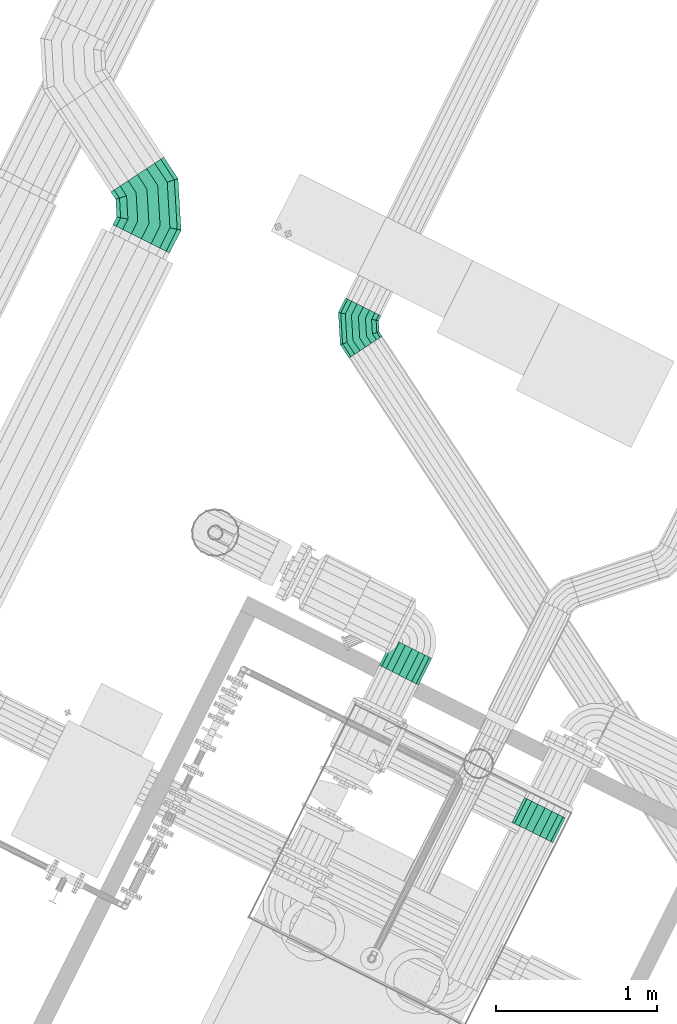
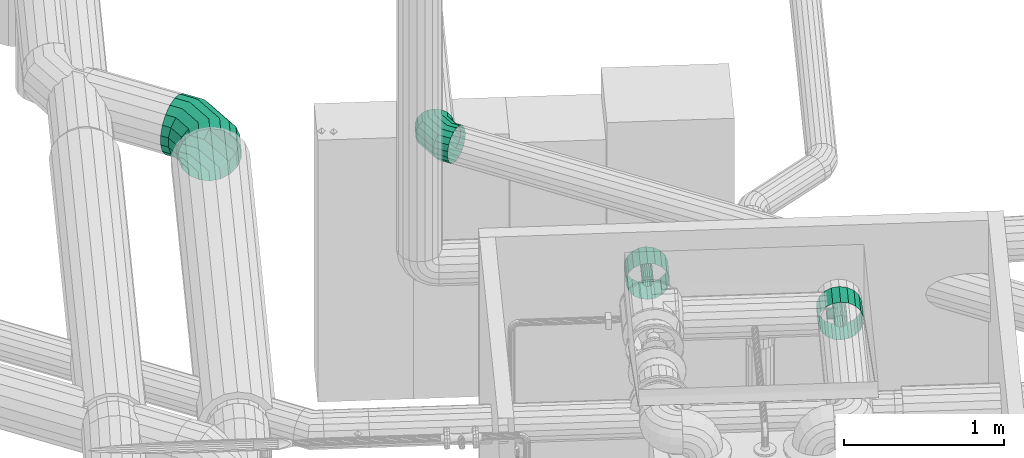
# One storey, part 159 of 206: 3 flow fittings, 1 flow segment.
"""IFC2X3 building model written with IfcOpenShell, lengths in metres."""

import ifcopenshell
import ifcopenshell.guid

model = None  # the IFC model being written
_history = None  # IfcOwnerHistory: only IFC2X3 demands one
_inside = {}  # id of a spatial element -> (the spatial element, [elements in it])
_under = {}  # id of a project, library or spatial element -> (it, [spatial elements below it])
_declared = {}  # id of a project -> (the project, [libraries it declares])
_typed = {}  # id of a type object -> (the type object, [elements of that type])
_made_of = {}  # id of a material, layer set ... -> (it, [elements and type objects made of it])


def new_model(schema):
    """Start an empty IFC model of exactly this schema.

    Asked for "IFC4X3", IfcOpenShell would pick the latest addendum, in which some entities
    have other attributes; the version numbers below select the first issue.
    IFC2X3 requires an IfcOwnerHistory on every rooted entity: one is made here for all.
    """
    global model, _history
    if schema == "IFC4X3":
        model = ifcopenshell.file(schema_version=(4, 3, 0, 0))
    else:
        model = ifcopenshell.file(schema=schema)
    _inside.clear()
    _under.clear()
    _declared.clear()
    _typed.clear()
    _made_of.clear()
    _history = None
    if model.schema == "IFC2X3":
        org = make("IfcOrganization", Name="unknown")
        user = make(
            "IfcPersonAndOrganization",
            ThePerson=make("IfcPerson", FamilyName="unknown"),
            TheOrganization=org,
        )
        app = make(
            "IfcApplication",
            ApplicationDeveloper=org,
            Version="unknown",
            ApplicationFullName="unknown",
            ApplicationIdentifier="unknown",
        )
        _history = make(
            "IfcOwnerHistory",
            OwningUser=user,
            OwningApplication=app,
            ChangeAction="ADDED",
            CreationDate=0,
        )
    return model


def make(cls, **values):
    """One entity of the class cls with the attributes given. An attribute that is None is left unset."""
    return model.create_entity(
        cls, **{name: value for name, value in values.items() if value is not None}
    )


def rooted(cls, **values):
    """An entity with a GlobalId (a new one), such as an element, a storey or a relation."""
    return make(cls, GlobalId=ifcopenshell.guid.new(), OwnerHistory=_history, **values)


def si_unit(unit_type, name, prefix=None):
    """IfcSIUnit, for example si_unit("LENGTHUNIT", "METRE", prefix="MILLI")."""
    return make("IfcSIUnit", UnitType=unit_type, Prefix=prefix, Name=name)


def derived_unit(unit_type, elements):
    """IfcDerivedUnit: a product of units, each with its exponent."""
    return make(
        "IfcDerivedUnit",
        Elements=[
            make("IfcDerivedUnitElement", Unit=unit, Exponent=power)
            for unit, power in elements
        ],
        UnitType=unit_type,
    )


def assignment(units):
    """IfcUnitAssignment: the units of a project."""
    return None if units is None else make("IfcUnitAssignment", Units=units)


def point(xyz):
    """IfcCartesianPoint."""
    return None if xyz is None else make("IfcCartesianPoint", Coordinates=xyz)


def direction(xyz):
    """IfcDirection."""
    return None if xyz is None else make("IfcDirection", DirectionRatios=xyz)


def frame(location, z_axis=None, x_axis=None):
    """IfcAxis2Placement3D, a coordinate frame: its origin and axes. An axis left out is left unset."""
    return make(
        "IfcAxis2Placement3D",
        Location=point(location),
        Axis=direction(z_axis),
        RefDirection=direction(x_axis),
    )


def origin():
    """The frame at (0, 0, 0) with its axes left unset."""
    return frame((0.0, 0.0, 0.0))


def place(relative_to, where):
    """IfcLocalPlacement: puts the frame where relative to a parent placement (None: the world)."""
    return make(
        "IfcLocalPlacement", PlacementRelTo=relative_to, RelativePlacement=where
    )


def context(
    kind, dimensions, precision=None, world=None, true_north=None, identifier=None
):
    """IfcGeometricRepresentationContext, for example the 3D "Model" context."""
    return make(
        "IfcGeometricRepresentationContext",
        ContextIdentifier=identifier,
        ContextType=kind,
        CoordinateSpaceDimension=dimensions,
        Precision=precision,
        WorldCoordinateSystem=world,
        TrueNorth=true_north,
    )


def subcontext(parent, identifier, kind, view, scale=None):
    """IfcGeometricRepresentationSubContext, for example "Body" below "Model"."""
    return make(
        "IfcGeometricRepresentationSubContext",
        ContextIdentifier=identifier,
        ContextType=kind,
        ParentContext=parent,
        TargetScale=scale,
        TargetView=view,
    )


def project(units=None, contexts=None):
    """IfcProject with its units and contexts."""
    return rooted(
        "IfcProject",
        Name="project",
        RepresentationContexts=contexts,
        UnitsInContext=assignment(units),
    )


def spatial(cls, under=None, at=None, **own):
    """A site, building, storey or space (cls), placed at a placement, below another one or the project."""
    s = rooted(cls, ObjectPlacement=at, **own)
    if under is not None:
        _under.setdefault(under.id(), (under, []))[1].append(s)
    return s


def faces_of(points, faces, orient=None, outer=None):
    """IfcFace entities. A face is a list of loops; a loop is a list of indices into points, from 0.

    orient and outer hold one flag for each loop. By default every Orientation is true, the
    first loop of a face is its IfcFaceOuterBound and the others are IfcFaceBound.
    """
    made = []
    for i, loops in enumerate(faces):
        bounds = []
        for j, loop in enumerate(loops):
            is_outer = j == 0 if outer is None else outer[i][j]
            bounds.append(
                make(
                    "IfcFaceOuterBound" if is_outer else "IfcFaceBound",
                    Bound=make("IfcPolyLoop", Polygon=[points[k] for k in loop]),
                    Orientation=True if orient is None else orient[i][j],
                )
            )
        made.append(make("IfcFace", Bounds=bounds))
    return made


def face_set(faces, orient=None, outer=None):
    """The faces of one IfcConnectedFaceSet. surface_model builds it on its shared points."""
    return ("IfcConnectedFaceSet", faces, orient, outer)


def surface_model(cls, points, shells):
    """IfcFaceBasedSurfaceModel or IfcShellBasedSurfaceModel (cls): surfaces that need not close."""
    shared = [point(p) for p in points]
    made = [make(c, CfsFaces=faces_of(shared, fs, o, b)) for c, fs, o, b in shells]
    if cls == "IfcFaceBasedSurfaceModel":
        return make(cls, FbsmFaces=made)
    return make(cls, SbsmBoundary=made)


def shape(context_of_items, identifier, shape_type, items):
    """IfcShapeRepresentation: the items that make up one representation, for example the "Body"."""
    return make(
        "IfcShapeRepresentation",
        ContextOfItems=context_of_items,
        RepresentationIdentifier=identifier,
        RepresentationType=shape_type,
        Items=items,
    )


def source(mapping_origin, context_of_items, identifier, shape_type, items):
    """IfcRepresentationMap: a shape defined once, which mapped items show again and again."""
    return make(
        "IfcRepresentationMap",
        MappingOrigin=mapping_origin,
        MappedRepresentation=shape(context_of_items, identifier, shape_type, items),
    )


def transform(
    local_origin,
    x_axis=None,
    y_axis=None,
    z_axis=None,
    scale=None,
    scale2=None,
    scale3=None,
    uniform=True,
):
    """IfcCartesianTransformationOperator3D, or its non-uniform kind. x_axis, y_axis, z_axis: its Axis1, 2, 3."""
    if uniform:
        return make(
            "IfcCartesianTransformationOperator3D",
            Axis1=direction(x_axis),
            Axis2=direction(y_axis),
            LocalOrigin=point(local_origin),
            Scale=scale,
            Axis3=direction(z_axis),
        )
    return make(
        "IfcCartesianTransformationOperator3DnonUniform",
        Axis1=direction(x_axis),
        Axis2=direction(y_axis),
        LocalOrigin=point(local_origin),
        Scale=scale,
        Axis3=direction(z_axis),
        Scale2=scale2,
        Scale3=scale3,
    )


def mapped(mapping_source, mapping_target):
    """IfcMappedItem: shows the shape of a source again, moved by a transform."""
    return make(
        "IfcMappedItem", MappingSource=mapping_source, MappingTarget=mapping_target
    )


def material(Name=None, Category=None):
    """IfcMaterial."""
    return make("IfcMaterial", Name=Name, Category=Category)


def made_of(thing, what):
    """Note that an element or type object is made of a material, layer set ...; save() writes the relation."""
    if what is not None:
        _made_of.setdefault(what.id(), (what, []))[1].append(thing)
    return thing


def type_object(cls, material=None, **own):
    """A type object (cls), such as IfcWallType, which elements share."""
    return made_of(rooted(cls, **own), material)


def type_shapes(of_type, sources):
    """Give a type object the sources (RepresentationMaps) that its elements show as mapped items."""
    of_type.RepresentationMaps = sources


def element(
    cls,
    number,
    at=None,
    inside=None,
    cuts=None,
    type_object=None,
    material=None,
    context=None,
    identifier="Body",
    shape_type=None,
    held_by="IfcProductDefinitionShape",
    body=None,
    shapes=None,
    **own,
):
    """One element of the class cls, such as IfcWall. Its Tag is "e" and its number.

    at: its placement. inside: the storey or other place that contains it. cuts: it is an
    opening in that element (IfcRelVoidsElement). A single representation is given by context,
    identifier, shape_type and body (its items); several are given by shapes. held_by: the class
    of the entity that holds the representations. save() writes the other relations.
    """
    e = rooted(cls, Tag="e%d" % number, ObjectPlacement=at, **own)
    if body is not None:
        shapes = [shape(context, identifier, shape_type, body)]
    if shapes is not None:
        e.Representation = make(held_by, Representations=shapes)
    if inside is not None:
        _inside.setdefault(inside.id(), (inside, []))[1].append(e)
    if cuts is not None:
        rooted(
            "IfcRelVoidsElement", RelatingBuildingElement=cuts, RelatedOpeningElement=e
        )
    if type_object is not None:
        _typed.setdefault(type_object.id(), (type_object, []))[1].append(e)
    return made_of(e, material)


def aggregate(whole, parts):
    """IfcRelAggregates: a whole, such as a stair, and the parts it consists of."""
    return rooted("IfcRelAggregates", RelatingObject=whole, RelatedObjects=parts)


def save(model, path):
    """Write the relations noted so far, then the file.

    IfcRelAggregates (storeys below a building ...), IfcRelContainedInSpatialStructure (elements
    in a storey), IfcRelDefinesByType, IfcRelAssociatesMaterial and IfcRelDeclares: one each for
    every whole, place, type object, material and project.
    """
    for whole, parts in _under.values():
        aggregate(whole, parts)
    for where, things in _inside.values():
        rooted(
            "IfcRelContainedInSpatialStructure",
            RelatedElements=things,
            RelatingStructure=where,
        )
    for kind, things in _typed.values():
        rooted("IfcRelDefinesByType", RelatedObjects=things, RelatingType=kind)
    for what, things in _made_of.values():
        rooted("IfcRelAssociatesMaterial", RelatedObjects=things, RelatingMaterial=what)
    for by, libraries in _declared.values():
        rooted("IfcRelDeclares", RelatingContext=by, RelatedDefinitions=libraries)
    model.write(path)


model = new_model("IFC2X3")

# Units and contexts
model_context = context("Model", 3, precision=5.2338327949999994e-05, world=origin(), true_north=direction((0.0, 1.0)))
body_context = subcontext(model_context, "Body", "Model", "MODEL_VIEW")
ifc_project = project(units=[si_unit("LENGTHUNIT", "METRE"), si_unit("AREAUNIT", "SQUARE_METRE"), si_unit("VOLUMEUNIT", "CUBIC_METRE"), si_unit("MASSUNIT", "GRAM", prefix="KILO"), si_unit("PLANEANGLEUNIT", "RADIAN"), derived_unit("THERMALTRANSMITTANCEUNIT", [(si_unit("MASSUNIT", "GRAM", prefix="KILO"), 1), (si_unit("THERMODYNAMICTEMPERATUREUNIT", "KELVIN"), -1), (si_unit("TIMEUNIT", "SECOND"), -3)])], contexts=[model_context])

# Site, building, storey
site_placement = place(None, frame((0.0, 0.0, 0.0), z_axis=(0.0, 0.0, 1.0), x_axis=(0.8939966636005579, -0.4480736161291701, 0.0)))
site = spatial("IfcSite", under=ifc_project, at=site_placement, Name="Default", CompositionType="ELEMENT")
building_placement = place(site_placement, origin())
building = spatial("IfcBuilding", under=site, at=building_placement, CompositionType="ELEMENT")
storey_placement = place(building_placement, origin())
storey = spatial("IfcBuildingStorey", under=building, at=storey_placement, Name="Erdgeschoss", CompositionType="ELEMENT", Elevation=0.0)

# Flow fittings
ifc_material_1 = material(Name="IfcSurfaceStyle #251447")
distribution_element_type_1 = type_object("IfcDistributionElementType", Name="Segmentbogen 3 teilig 293769:Segmentbogen 3 teilig 293769", material=ifc_material_1)
shared_shape_1 = source(origin(), body_context, "Body", "SurfaceModel", [
    surface_model("IfcFaceBasedSurfaceModel", [(28.73772098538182, 12.068093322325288, 2.0749999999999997), (28.780473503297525, 12.068093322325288, 2.0825384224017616), (28.780473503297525, 12.012561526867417, 2.0825384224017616), (28.73772098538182, 12.001106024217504, 2.0749999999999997), (28.818069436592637, 12.068093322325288, 2.104244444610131), (28.818069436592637, 12.022635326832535, 2.104244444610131), (28.845974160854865, 12.068093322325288, 2.1375000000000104), (28.845974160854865, 12.030112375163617, 2.1375000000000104), (28.86082195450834, 12.068093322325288, 2.1782939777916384), (28.86082195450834, 12.034090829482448, 2.1782939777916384), (28.860821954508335, 12.068093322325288, 2.2217060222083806), (28.860821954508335, 12.034090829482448, 2.2217060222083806), (28.84597416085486, 12.068093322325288, 2.2625000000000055), (28.84597416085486, 12.030112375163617, 2.2625000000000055), (28.818069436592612, 12.068093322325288, 2.2957555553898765), (28.818069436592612, 12.022635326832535, 2.2957555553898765), (28.780473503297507, 12.068093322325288, 2.3174615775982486), (28.780473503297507, 12.012561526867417, 2.3174615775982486), (28.7377209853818, 12.068093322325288, 2.3249999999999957), (28.737720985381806, 12.001106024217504, 2.3249999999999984), (28.694968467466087, 12.068093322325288, 2.317461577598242), (28.694968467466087, 11.989650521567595, 2.317461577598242), (28.657372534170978, 12.068093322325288, 2.2957555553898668), (28.657372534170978, 11.979576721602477, 2.2957555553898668), (28.629467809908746, 12.068093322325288, 2.262499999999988), (28.629467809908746, 11.972099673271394, 2.262499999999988), (28.614620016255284, 12.068093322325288, 2.2217060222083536), (28.614620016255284, 11.968121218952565, 2.2217060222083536), (28.614620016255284, 12.068093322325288, 2.1782939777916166), (28.614620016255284, 11.968121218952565, 2.1782939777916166), (28.62946780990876, 12.068093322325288, 2.1374999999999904), (28.62946780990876, 11.972099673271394, 2.1374999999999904), (28.657372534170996, 12.068093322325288, 2.104244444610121), (28.657372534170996, 11.979576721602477, 2.104244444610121), (28.694968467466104, 12.068093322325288, 2.0825384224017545), (28.694968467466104, 11.989650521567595, 2.0825384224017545), (28.836005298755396, 11.916377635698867, 2.0825384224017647), (28.8047082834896, 11.885080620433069, 2.075000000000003), (28.863527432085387, 11.943899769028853, 2.1042444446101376), (28.883955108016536, 11.964327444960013, 2.1375000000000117), (28.894824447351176, 11.975196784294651, 2.178293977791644), (28.894824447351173, 11.975196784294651, 2.221706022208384), (28.88395510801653, 11.96432744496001, 2.262500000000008), (28.86352743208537, 11.943899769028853, 2.2957555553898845), (28.83600529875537, 11.916377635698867, 2.317461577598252), (28.804708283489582, 11.885080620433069, 2.3250000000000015), (28.77341126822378, 11.853783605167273, 2.3174615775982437), (28.74588913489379, 11.826261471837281, 2.2957555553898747), (28.72546145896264, 11.805833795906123, 2.2625000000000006), (28.714592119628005, 11.794964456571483, 2.22170602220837), (28.714592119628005, 11.794964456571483, 2.17829397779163), (28.72546145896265, 11.805833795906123, 2.137499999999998), (28.745889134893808, 11.826261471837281, 2.104244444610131), (28.7734112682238, 11.853783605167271, 2.0825384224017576), (28.884097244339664, 11.888611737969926, 2.0825384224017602), (28.862720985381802, 11.851586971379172, 2.0749999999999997), (28.902895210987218, 11.921170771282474, 2.104244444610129), (28.916847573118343, 11.945336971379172, 2.1375), (28.924271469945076, 11.958195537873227, 2.178293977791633), (28.92427146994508, 11.958195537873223, 2.221706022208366), (28.91684757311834, 11.94533697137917, 2.262499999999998), (28.902895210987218, 11.921170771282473, 2.2957555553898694), (28.884097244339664, 11.888611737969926, 2.3174615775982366), (28.862720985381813, 11.851586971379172, 2.324999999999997), (28.84134472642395, 11.81456220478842, 2.3174615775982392), (28.822546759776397, 11.78200317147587, 2.295755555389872), (28.808594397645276, 11.757836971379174, 2.262499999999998), (28.801170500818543, 11.74497840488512, 2.221706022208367), (28.801170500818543, 11.744978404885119, 2.1782939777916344), (28.808594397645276, 11.757836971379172, 2.1375000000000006), (28.822546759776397, 11.78200317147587, 2.1042444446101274), (28.84134472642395, 11.81456220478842, 2.0825384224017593)], [face_set([[[0, 1, 2, 3]], [[1, 4, 5, 2]], [[4, 6, 7, 5]], [[6, 8, 9, 7]], [[8, 10, 11, 9]], [[10, 12, 13, 11]], [[12, 14, 15, 13]], [[14, 16, 17, 15]], [[16, 18, 19, 17]], [[18, 20, 21, 19]], [[20, 22, 23, 21]], [[22, 24, 25, 23]], [[24, 26, 27, 25]], [[26, 28, 29, 27]], [[28, 30, 31, 29]], [[30, 32, 33, 31]], [[32, 34, 35, 33]], [[34, 0, 3, 35]], [[3, 2, 36, 37]], [[2, 5, 38, 36]], [[5, 7, 39, 38]], [[7, 9, 40, 39]], [[9, 11, 41, 40]], [[11, 13, 42, 41]], [[13, 15, 43, 42]], [[15, 17, 44, 43]], [[17, 19, 45, 44]], [[19, 21, 46, 45]], [[21, 23, 47, 46]], [[23, 25, 48, 47]], [[25, 27, 49, 48]], [[27, 29, 50, 49]], [[29, 31, 51, 50]], [[31, 33, 52, 51]], [[33, 35, 53, 52]], [[35, 3, 37, 53]], [[37, 36, 54, 55]], [[36, 38, 56, 54]], [[38, 39, 57, 56]], [[39, 40, 58, 57]], [[40, 41, 59, 58]], [[41, 42, 60, 59]], [[42, 43, 61, 60]], [[43, 44, 62, 61]], [[44, 45, 63, 62]], [[45, 46, 64, 63]], [[46, 47, 65, 64]], [[47, 48, 66, 65]], [[48, 49, 67, 66]], [[49, 50, 68, 67]], [[50, 51, 69, 68]], [[51, 52, 70, 69]], [[52, 53, 71, 70]], [[53, 37, 55, 71]]])]),
])
type_shapes(distribution_element_type_1, [shared_shape_1])
flow_fitting_1_placement = place(storey_placement, origin())
element("IfcFlowFitting", 1, at=flow_fitting_1_placement, inside=storey, type_object=distribution_element_type_1, material=ifc_material_1, Name="Segmentbogen 3 teilig", ObjectType="Segmentbogen 3 teilig", context=body_context, shape_type="MappedRepresentation", body=[
    mapped(shared_shape_1, transform((0.0, 0.0, 0.0), scale=1.0)),
])
distribution_element_type_2 = type_object("IfcDistributionElementType", Name="Segmentbogen 3 teilig 294636:Segmentbogen 3 teilig 294636", material=ifc_material_1)
shared_shape_2 = source(origin(), body_context, "Body", "SurfaceModel", [
    surface_model("IfcFaceBasedSurfaceModel", [(27.31550898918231, 11.828208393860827, 2.0), (27.247104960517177, 11.828208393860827, 2.01206147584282), (27.247104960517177, 11.91705926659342, 2.01206147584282), (27.31550898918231, 11.935388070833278, 2.0), (27.186951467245, 11.828208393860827, 2.0467911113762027), (27.186951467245, 11.900941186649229, 2.0467911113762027), (27.142303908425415, 11.828208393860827, 2.099999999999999), (27.142303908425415, 11.888977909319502, 2.099999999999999), (27.118547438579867, 11.828208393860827, 2.165270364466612), (27.118547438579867, 11.882612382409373, 2.165270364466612), (27.118547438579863, 11.828208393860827, 2.23472963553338), (27.118547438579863, 11.882612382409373, 2.23472963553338), (27.142303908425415, 11.828208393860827, 2.2999999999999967), (27.142303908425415, 11.888977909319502, 2.2999999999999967), (27.186951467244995, 11.828208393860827, 2.353208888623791), (27.186951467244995, 11.900941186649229, 2.353208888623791), (27.24710496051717, 11.828208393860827, 2.387938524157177), (27.24710496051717, 11.917059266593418, 2.387938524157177), (27.315508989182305, 11.828208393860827, 2.399999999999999), (27.315508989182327, 11.935388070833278, 2.3999999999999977), (27.383913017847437, 11.828208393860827, 2.387938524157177), (27.383913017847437, 11.953716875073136, 2.387938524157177), (27.444066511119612, 11.828208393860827, 2.353208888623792), (27.444066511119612, 11.969834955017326, 2.353208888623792), (27.488714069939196, 11.828208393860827, 2.3000000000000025), (27.488714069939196, 11.981798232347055, 2.3000000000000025), (27.512470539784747, 11.828208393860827, 2.234729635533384), (27.512470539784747, 11.988163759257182, 2.234729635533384), (27.512470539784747, 11.828208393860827, 2.165270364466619), (27.512470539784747, 11.988163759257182, 2.165270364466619), (27.488714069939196, 11.828208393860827, 2.1000000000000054), (27.488714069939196, 11.981798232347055, 2.1000000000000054), (27.444066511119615, 11.828208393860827, 2.0467911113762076), (27.444066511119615, 11.969834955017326, 2.0467911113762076), (27.38391301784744, 11.828208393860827, 2.0120614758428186), (27.38391301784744, 11.953716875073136, 2.0120614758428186), (27.158254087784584, 12.070953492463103, 2.012061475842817), (27.20832931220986, 12.121028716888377, 2.0), (27.1142186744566, 12.02691807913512, 2.046791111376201), (27.08153439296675, 11.994233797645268, 2.099999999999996), (27.06414345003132, 11.976842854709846, 2.165270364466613), (27.064143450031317, 11.976842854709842, 2.2347296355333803), (27.08153439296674, 11.994233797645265, 2.2999999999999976), (27.114218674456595, 12.02691807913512, 2.353208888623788), (27.158254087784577, 12.070953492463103, 2.387938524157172), (27.20832931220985, 12.121028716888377, 2.3999999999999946), (27.25840453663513, 12.171103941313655, 2.387938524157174), (27.302439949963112, 12.21513935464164, 2.353208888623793), (27.33512423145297, 12.247823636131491, 2.3000000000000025), (27.352515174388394, 12.265214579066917, 2.234729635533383), (27.35251517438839, 12.265214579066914, 2.1652703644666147), (27.33512423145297, 12.247823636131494, 2.099999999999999), (27.302439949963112, 12.21513935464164, 2.046791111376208), (27.258404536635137, 12.171103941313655, 2.0120614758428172), (27.081306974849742, 12.115378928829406, 2.012061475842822), (27.115508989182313, 12.174618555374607, 2.0), (27.05123022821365, 12.063284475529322, 2.046791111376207), (27.028906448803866, 12.024618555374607, 2.100000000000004), (27.017028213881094, 12.004044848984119, 2.1652703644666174), (27.017028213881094, 12.004044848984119, 2.2347296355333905), (27.028906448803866, 12.024618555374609, 2.300000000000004), (27.051230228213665, 12.063284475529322, 2.3532088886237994), (27.08130697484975, 12.115378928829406, 2.3879385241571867), (27.11550898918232, 12.174618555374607, 2.4000000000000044), (27.149711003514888, 12.233858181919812, 2.3879385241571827), (27.179787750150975, 12.285952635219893, 2.3532088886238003), (27.20211152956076, 12.324618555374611, 2.3000000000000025), (27.21398976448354, 12.345192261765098, 2.2347296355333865), (27.21398976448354, 12.345192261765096, 2.1652703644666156), (27.20211152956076, 12.324618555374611, 2.100000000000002), (27.17978775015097, 12.285952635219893, 2.0467911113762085), (27.14971100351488, 12.233858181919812, 2.01206147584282)], [face_set([[[0, 1, 2, 3]], [[1, 4, 5, 2]], [[4, 6, 7, 5]], [[6, 8, 9, 7]], [[8, 10, 11, 9]], [[10, 12, 13, 11]], [[12, 14, 15, 13]], [[14, 16, 17, 15]], [[16, 18, 19, 17]], [[18, 20, 21, 19]], [[20, 22, 23, 21]], [[22, 24, 25, 23]], [[24, 26, 27, 25]], [[26, 28, 29, 27]], [[28, 30, 31, 29]], [[30, 32, 33, 31]], [[32, 34, 35, 33]], [[34, 0, 3, 35]], [[3, 2, 36, 37]], [[2, 5, 38, 36]], [[5, 7, 39, 38]], [[7, 9, 40, 39]], [[9, 11, 41, 40]], [[11, 13, 42, 41]], [[13, 15, 43, 42]], [[15, 17, 44, 43]], [[17, 19, 45, 44]], [[19, 21, 46, 45]], [[21, 23, 47, 46]], [[23, 25, 48, 47]], [[25, 27, 49, 48]], [[27, 29, 50, 49]], [[29, 31, 51, 50]], [[31, 33, 52, 51]], [[33, 35, 53, 52]], [[35, 3, 37, 53]], [[37, 36, 54, 55]], [[36, 38, 56, 54]], [[38, 39, 57, 56]], [[39, 40, 58, 57]], [[40, 41, 59, 58]], [[41, 42, 60, 59]], [[42, 43, 61, 60]], [[43, 44, 62, 61]], [[44, 45, 63, 62]], [[45, 46, 64, 63]], [[46, 47, 65, 64]], [[47, 48, 66, 65]], [[48, 49, 67, 66]], [[49, 50, 68, 67]], [[50, 51, 69, 68]], [[51, 52, 70, 69]], [[52, 53, 71, 70]], [[53, 37, 55, 71]]])]),
])
type_shapes(distribution_element_type_2, [shared_shape_2])
flow_fitting_2_placement = place(storey_placement, origin())
element("IfcFlowFitting", 2, at=flow_fitting_2_placement, inside=storey, type_object=distribution_element_type_2, material=ifc_material_1, Name="Segmentbogen 3 teilig", ObjectType="Segmentbogen 3 teilig", context=body_context, shape_type="MappedRepresentation", body=[
    mapped(shared_shape_2, transform((0.0, 0.0, 0.0), scale=1.0)),
])
ifc_material_2 = material(Name="IfcSurfaceStyle #9317")
distribution_element_type_3 = type_object("IfcDistributionElementType", Name="Abzweigstück 331504:Abzweigstück 331504", material=ifc_material_2)
shared_shape_3 = source(origin(), body_context, "Body", "SurfaceModel", [
    surface_model("IfcFaceBasedSurfaceModel", [(31.13987201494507, 9.62141948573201, 2.269549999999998), (31.124669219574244, 9.62141948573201, 2.2722306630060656), (31.124669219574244, 9.793419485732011, 2.2722306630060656), (31.139872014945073, 9.793419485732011, 2.269549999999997), (31.111300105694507, 9.62141948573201, 2.2799493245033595), (31.111300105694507, 9.793419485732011, 2.2799493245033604), (31.101377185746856, 9.62141948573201, 2.291774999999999), (31.101377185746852, 9.793419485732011, 2.291775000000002), (31.096097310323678, 9.62141948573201, 2.306281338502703), (31.096097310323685, 9.793419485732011, 2.306281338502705), (31.096097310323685, 9.62141948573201, 2.321718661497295), (31.096097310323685, 9.793419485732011, 2.3217186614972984), (31.101377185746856, 9.62141948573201, 2.3362250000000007), (31.101377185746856, 9.793419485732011, 2.3362250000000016), (31.111300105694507, 9.62141948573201, 2.3480506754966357), (31.111300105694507, 9.793419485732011, 2.348050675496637), (31.124669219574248, 9.62141948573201, 2.3557693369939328), (31.12466921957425, 9.793419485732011, 2.3557693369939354), (31.139872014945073, 9.62141948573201, 2.358449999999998), (31.139872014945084, 9.793419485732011, 2.3584499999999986), (31.1550748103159, 9.62141948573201, 2.3557693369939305), (31.155074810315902, 9.793419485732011, 2.355769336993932), (31.16844392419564, 9.62141948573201, 2.3480506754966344), (31.168443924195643, 9.793419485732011, 2.348050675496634), (31.17836684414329, 9.62141948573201, 2.3362249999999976), (31.178366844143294, 9.793419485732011, 2.336224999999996), (31.183646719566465, 9.62141948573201, 2.321718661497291), (31.183646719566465, 9.793419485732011, 2.32171866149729), (31.183646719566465, 9.62141948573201, 2.3062813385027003), (31.183646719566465, 9.793419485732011, 2.3062813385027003), (31.17836684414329, 9.62141948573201, 2.291774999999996), (31.17836684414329, 9.793419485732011, 2.291774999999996), (31.16844392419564, 9.62141948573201, 2.2799493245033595), (31.168443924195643, 9.793419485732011, 2.279949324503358), (31.155074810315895, 9.62141948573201, 2.2722306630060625), (31.155074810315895, 9.793419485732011, 2.2722306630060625), (31.05687201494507, 9.74546948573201, 2.3140000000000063), (31.05687201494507, 9.743174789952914, 2.327013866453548), (31.0973697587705, 9.743174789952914, 2.327013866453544), (31.095422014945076, 9.745469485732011, 2.314000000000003), (31.056872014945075, 9.736567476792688, 2.3384580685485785), (31.102755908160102, 9.736567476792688, 2.338458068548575), (31.05687201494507, 9.72644448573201, 2.346952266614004), (31.110039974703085, 9.72644448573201, 2.3469522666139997), (31.05687201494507, 9.714026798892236, 2.3514719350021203), (31.115962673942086, 9.714026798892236, 2.351471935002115), (31.056872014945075, 9.700812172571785, 2.3514719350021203), (31.115962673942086, 9.700812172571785, 2.3514719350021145), (31.05687201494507, 9.688394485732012, 2.3469522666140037), (31.110039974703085, 9.688394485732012, 2.3469522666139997), (31.05687201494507, 9.678271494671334, 2.3384580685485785), (31.102755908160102, 9.678271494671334, 2.338458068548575), (31.056872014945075, 9.671664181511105, 2.3270138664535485), (31.0973697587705, 9.671664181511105, 2.3270138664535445), (31.05687201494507, 9.669369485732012, 2.3140000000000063), (31.095422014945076, 9.66936948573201, 2.314000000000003), (31.05687201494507, 9.671664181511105, 2.300986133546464), (31.097369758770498, 9.671664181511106, 2.3009861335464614), (31.05687201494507, 9.678271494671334, 2.2895419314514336), (31.1027559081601, 9.678271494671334, 2.289541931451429), (31.05687201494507, 9.688394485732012, 2.281047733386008), (31.110039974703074, 9.688394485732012, 2.2810477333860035), (31.05687201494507, 9.700812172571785, 2.2765280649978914), (31.11596267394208, 9.700812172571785, 2.2765280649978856), (31.05687201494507, 9.714026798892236, 2.276528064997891), (31.11596267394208, 9.714026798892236, 2.276528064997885), (31.05687201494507, 9.72644448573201, 2.281047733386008), (31.110039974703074, 9.72644448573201, 2.2810477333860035), (31.05687201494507, 9.736567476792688, 2.2895419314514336), (31.1027559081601, 9.736567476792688, 2.289541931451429), (31.05687201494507, 9.743174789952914, 2.300986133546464), (31.097369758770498, 9.743174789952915, 2.3009861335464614), (31.13987201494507, 9.62141948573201, 2.1695499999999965), (31.09046720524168, 9.62141948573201, 2.1782614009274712), (31.090467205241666, 9.793419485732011, 2.178261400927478), (31.13987201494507, 9.793419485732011, 2.1695500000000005), (31.04702134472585, 9.62141948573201, 2.2033448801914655), (31.047021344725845, 9.793419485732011, 2.20334488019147), (31.01477464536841, 9.62141948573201, 2.2417750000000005), (31.01477464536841, 9.793419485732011, 2.2417750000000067), (30.997616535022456, 9.62141948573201, 2.2889165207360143), (30.99761653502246, 9.793419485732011, 2.2889165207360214), (30.99761653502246, 9.62141948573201, 2.3390834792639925), (30.997616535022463, 9.793419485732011, 2.3390834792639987), (31.014774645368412, 9.62141948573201, 2.386225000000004), (31.014774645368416, 9.793419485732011, 2.3862250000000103), (31.047021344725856, 9.62141948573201, 2.4246551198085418), (31.04702134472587, 9.793419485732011, 2.4246551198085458), (31.090467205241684, 9.62141948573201, 2.449738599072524), (31.090467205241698, 9.793419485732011, 2.449738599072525), (31.139872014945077, 9.62141948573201, 2.458449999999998), (31.13987201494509, 9.793419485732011, 2.4584499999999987), (31.189276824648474, 9.62141948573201, 2.4497385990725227), (31.18927682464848, 9.793419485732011, 2.44973859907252), (31.2327226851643, 9.62141948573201, 2.424655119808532), (31.23272268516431, 9.793419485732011, 2.4246551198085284), (31.264969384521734, 9.62141948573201, 2.3862249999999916), (31.264969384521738, 9.793419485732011, 2.3862249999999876), (31.282127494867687, 9.62141948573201, 2.339083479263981), (31.282127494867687, 9.793419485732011, 2.3390834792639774), (31.282127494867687, 9.62141948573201, 2.2889165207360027), (31.282127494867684, 9.793419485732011, 2.2889165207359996), (31.26496938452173, 9.62141948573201, 2.2417749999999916), (31.26496938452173, 9.793419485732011, 2.24177499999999), (31.23272268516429, 9.62141948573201, 2.2033448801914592), (31.23272268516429, 9.793419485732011, 2.2033448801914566), (31.189276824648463, 9.62141948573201, 2.178261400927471), (31.189276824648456, 9.793419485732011, 2.178261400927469)], [face_set([[[0, 1, 2, 3]], [[1, 4, 5, 2]], [[4, 6, 7, 5]], [[6, 8, 9, 7]], [[8, 10, 11, 9]], [[10, 12, 13, 11]], [[12, 14, 15, 13]], [[14, 16, 17, 15]], [[16, 18, 19, 17]], [[18, 20, 21, 19]], [[20, 22, 23, 21]], [[22, 24, 25, 23]], [[24, 26, 27, 25]], [[26, 28, 29, 27]], [[28, 30, 31, 29]], [[30, 32, 33, 31]], [[32, 34, 35, 33]], [[34, 0, 3, 35]], [[36, 37, 38, 39]], [[37, 40, 41, 38]], [[40, 42, 43, 41]], [[42, 44, 45, 43]], [[44, 46, 47, 45]], [[46, 48, 49, 47]], [[48, 50, 51, 49]], [[50, 52, 53, 51]], [[52, 54, 55, 53]], [[54, 56, 57, 55]], [[56, 58, 59, 57]], [[58, 60, 61, 59]], [[60, 62, 63, 61]], [[62, 64, 65, 63]], [[64, 66, 67, 65]], [[66, 68, 69, 67]], [[68, 70, 71, 69]], [[70, 36, 39, 71]], [[72, 73, 74, 75]], [[73, 76, 77, 74]], [[76, 78, 79, 77]], [[78, 80, 81, 79]], [[80, 82, 83, 81]], [[82, 84, 85, 83]], [[84, 86, 87, 85]], [[86, 88, 89, 87]], [[88, 90, 91, 89]], [[90, 92, 93, 91]], [[92, 94, 95, 93]], [[94, 96, 97, 95]], [[96, 98, 99, 97]], [[98, 100, 101, 99]], [[100, 102, 103, 101]], [[102, 104, 105, 103]], [[104, 106, 107, 105]], [[106, 72, 75, 107]]])]),
])
type_shapes(distribution_element_type_3, [shared_shape_3])
flow_fitting_3_placement = place(storey_placement, origin())
element("IfcFlowFitting", 3, at=flow_fitting_3_placement, inside=storey, type_object=distribution_element_type_3, material=ifc_material_2, Name="Abzweigstück", ObjectType="Abzweigstück", context=body_context, shape_type="MappedRepresentation", body=[
    mapped(shared_shape_3, transform((0.0, 0.0, 0.0), scale=1.0)),
])

# Flow segment
ifc_material_3 = material(Name="IfcSurfaceStyle #1741")
distribution_element_type_4 = type_object("IfcDistributionElementType", Name="Stahlrohr nach DIN 2448 347642:Stahlrohr nach DIN 2448 347642", material=ifc_material_3)
shared_shape_4 = source(origin(), body_context, "Body", "SurfaceModel", [
    surface_model("IfcFaceBasedSurfaceModel", [(29.960127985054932, 10.12394336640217, 2.3520499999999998), (29.97314185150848, 10.12394336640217, 2.349755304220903), (29.97314185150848, 10.308208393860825, 2.349755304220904), (29.960127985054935, 10.308208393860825, 2.3520499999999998), (29.984586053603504, 10.12394336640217, 2.343147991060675), (29.984586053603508, 10.308208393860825, 2.343147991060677), (29.99308025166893, 10.12394336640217, 2.3330249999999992), (29.99308025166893, 10.308208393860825, 2.3330250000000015), (29.99759992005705, 10.12394336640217, 2.320607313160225), (29.99759992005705, 10.308208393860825, 2.3206073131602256), (29.997599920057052, 10.12394336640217, 2.3073926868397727), (29.997599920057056, 10.308208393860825, 2.307392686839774), (29.993080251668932, 10.12394336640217, 2.294974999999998), (29.993080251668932, 10.308208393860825, 2.2949749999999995), (29.984586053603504, 10.12394336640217, 2.2848520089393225), (29.984586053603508, 10.308208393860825, 2.2848520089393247), (29.97314185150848, 10.12394336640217, 2.278244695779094), (29.97314185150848, 10.308208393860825, 2.2782446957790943), (29.960127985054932, 10.12394336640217, 2.2759500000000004), (29.960127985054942, 10.308208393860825, 2.2759500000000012), (29.947114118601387, 10.12394336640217, 2.278244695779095), (29.9471141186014, 10.308208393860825, 2.278244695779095), (29.93566991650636, 10.12394336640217, 2.284852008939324), (29.935669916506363, 10.308208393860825, 2.2848520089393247), (29.927175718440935, 10.12394336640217, 2.2949750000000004), (29.92717571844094, 10.308208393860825, 2.2949749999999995), (29.922656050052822, 10.12394336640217, 2.3073926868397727), (29.922656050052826, 10.308208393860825, 2.3073926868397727), (29.922656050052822, 10.12394336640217, 2.320607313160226), (29.922656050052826, 10.308208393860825, 2.320607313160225), (29.927175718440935, 10.12394336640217, 2.333025), (29.92717571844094, 10.308208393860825, 2.3330249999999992), (29.93566991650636, 10.12394336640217, 2.3431479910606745), (29.93566991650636, 10.308208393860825, 2.3431479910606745), (29.947114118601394, 10.12394336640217, 2.349755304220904), (29.947114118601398, 10.308208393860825, 2.3497553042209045), (29.960127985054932, 10.12394336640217, 2.4520500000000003), (30.007343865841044, 10.12394336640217, 2.4437245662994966), (30.007343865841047, 10.308208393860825, 2.4437245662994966), (29.960127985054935, 10.308208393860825, 2.4520500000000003), (30.04886481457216, 10.12394336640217, 2.419752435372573), (30.048864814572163, 10.308208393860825, 2.419752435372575), (30.079682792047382, 10.12394336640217, 2.3830250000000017), (30.079682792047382, 10.308208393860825, 2.3830250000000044), (30.09608069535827, 10.12394336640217, 2.337972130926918), (30.09608069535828, 10.308208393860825, 2.33797213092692), (30.096080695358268, 10.12394336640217, 2.2900278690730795), (30.09608069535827, 10.308208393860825, 2.2900278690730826), (30.079682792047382, 10.12394336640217, 2.2449749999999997), (30.079682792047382, 10.308208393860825, 2.244975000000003), (30.048864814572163, 10.12394336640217, 2.208247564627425), (30.048864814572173, 10.308208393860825, 2.2082475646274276), (30.007343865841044, 10.12394336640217, 2.1842754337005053), (30.007343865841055, 10.308208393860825, 2.1842754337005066), (29.960127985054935, 10.12394336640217, 2.1759499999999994), (29.960127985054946, 10.308208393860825, 2.17595), (29.91291210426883, 10.12394336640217, 2.1842754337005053), (29.912912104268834, 10.308208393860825, 2.1842754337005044), (29.871391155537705, 10.12394336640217, 2.208247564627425), (29.871391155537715, 10.308208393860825, 2.208247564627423), (29.840573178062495, 10.12394336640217, 2.244975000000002), (29.8405731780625, 10.308208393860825, 2.2449749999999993), (29.824175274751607, 10.12394336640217, 2.290027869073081), (29.82417527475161, 10.308208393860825, 2.290027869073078), (29.824175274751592, 10.12394336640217, 2.3379721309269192), (29.8241752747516, 10.308208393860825, 2.3379721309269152), (29.840573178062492, 10.12394336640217, 2.3830249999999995), (29.840573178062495, 10.308208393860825, 2.383024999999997), (29.871391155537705, 10.12394336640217, 2.4197524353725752), (29.871391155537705, 10.308208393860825, 2.419752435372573), (29.912912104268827, 10.12394336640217, 2.4437245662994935), (29.91291210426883, 10.308208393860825, 2.4437245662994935)], [face_set([[[0, 1, 2, 3]], [[1, 4, 5, 2]], [[4, 6, 7, 5]], [[6, 8, 9, 7]], [[8, 10, 11, 9]], [[10, 12, 13, 11]], [[12, 14, 15, 13]], [[14, 16, 17, 15]], [[16, 18, 19, 17]], [[18, 20, 21, 19]], [[20, 22, 23, 21]], [[22, 24, 25, 23]], [[24, 26, 27, 25]], [[26, 28, 29, 27]], [[28, 30, 31, 29]], [[30, 32, 33, 31]], [[32, 34, 35, 33]], [[34, 0, 3, 35]], [[36, 37, 38, 39]], [[37, 40, 41, 38]], [[40, 42, 43, 41]], [[42, 44, 45, 43]], [[44, 46, 47, 45]], [[46, 48, 49, 47]], [[48, 50, 51, 49]], [[50, 52, 53, 51]], [[52, 54, 55, 53]], [[54, 56, 57, 55]], [[56, 58, 59, 57]], [[58, 60, 61, 59]], [[60, 62, 63, 61]], [[62, 64, 65, 63]], [[64, 66, 67, 65]], [[66, 68, 69, 67]], [[68, 70, 71, 69]], [[70, 36, 39, 71]]])]),
])
type_shapes(distribution_element_type_4, [shared_shape_4])
flow_segment_placement = place(storey_placement, origin())
element("IfcFlowSegment", 4, at=flow_segment_placement, inside=storey, type_object=distribution_element_type_4, material=ifc_material_3, Name="Stahlrohr nach DIN 2448", ObjectType="Stahlrohr nach DIN 2448", context=body_context, shape_type="MappedRepresentation", body=[
    mapped(shared_shape_4, transform((0.0, 0.0, 0.0), scale=1.0)),
])

save(model, "model.ifc")
